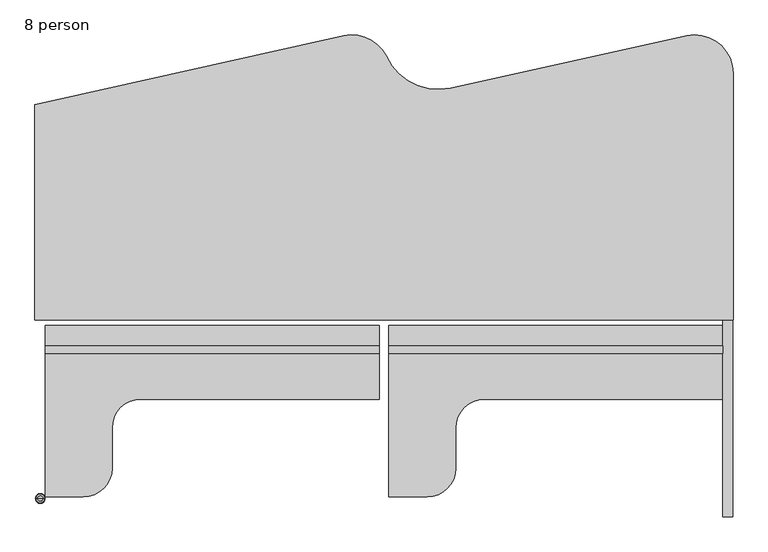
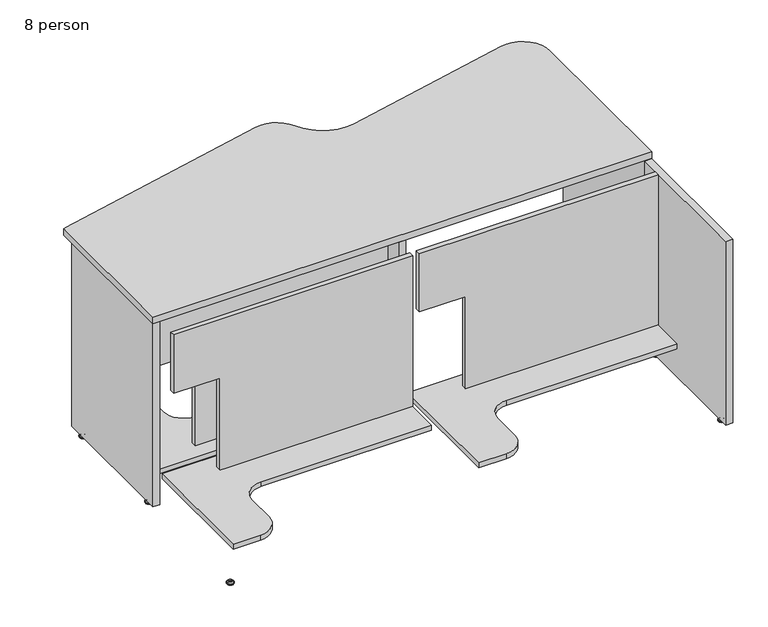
"""IFC4 building model written with IfcOpenShell, lengths in millimetres: furniture geometry, Nova Solutions - Collaboration Table - Keystone_8-11 person : 8 person."""

from ifc_helpers import new_model, si_unit, point, frame, frame_2d, origin, place, context, project, spatial, polyline, circle_curve, ellipse_curve, trimmed, segment, composite_curve, outline, extrude, source, transform, mapped, element, save
from ifc_brep_helpers import plane_surface, cylinder_surface, revolved_surface, advanced_brep


def furniture_8_person_6312feb5(model_context):
    return source(origin(), model_context, "Body", "SolidModel", [
        advanced_brep(
        [(2317.3156506, 474.3309375, 11.1125), (2310.638, 474.3309375, 11.1125), (2303.9603494, 474.3309375, 11.1125), (2317.3156506, 474.3309375, 9.525), (2303.9603494, 474.3309375, 9.525), (2322.5235135, 474.3309375, 4.7748687), (2298.7524865, 474.3309375, 4.7748687), (2323.3846506, 474.3309375, 3.989419), (2297.8913494, 474.3309375, 3.989419), (2323.3846506, 474.3309375, 3.175), (2297.8913494, 474.3309375, 3.175), (2322.5339119, 474.3309375, 0.0), (2298.7420881, 474.3309375, 0.0), (2310.638, 474.3309375, 0.0)],
        [
            (0, 1),
            (1, 2),
            (2, 0, circle_curve(frame((2310.638, 474.3309375, 11.1125), z_axis=(0.0, 0.0, 1.0), x_axis=(-1.0, 0.0, 0.0)), 6.6776506)),
            (0, 2, circle_curve(frame((2310.638, 474.3309375, 11.1125), z_axis=(0.0, 0.0, 1.0), x_axis=(-1.0, 0.0, 0.0)), 6.6776506)),
            (3, 0),
            (2, 4),
            (4, 3, circle_curve(frame((2310.638, 474.3309375, 9.525), z_axis=(0.0, 0.0, 1.0), x_axis=(-1.0, 0.0, 0.0)), 6.6776506)),
            (3, 4, circle_curve(frame((2310.638, 474.3309375, 9.525), z_axis=(0.0, 0.0, 1.0), x_axis=(-1.0, 0.0, 0.0)), 6.6776506)),
            (5, 3, circle_curve(frame((2323.5700627, 474.3309375, 11.1521822), z_axis=(0.0, 1.0, 0.0), x_axis=(-1.0, 0.0, 0.0)), 6.462615)),
            (4, 6, circle_curve(frame((2297.7059373, 474.3309375, 11.1521822), z_axis=(0.0, 1.0, 0.0), x_axis=(1.0, 0.0, 0.0)), 6.462615)),
            (6, 5, circle_curve(frame((2310.638, 474.3309375, 4.7748687), z_axis=(0.0, 0.0, 1.0), x_axis=(-1.0, 0.0, 0.0)), 11.8855135)),
            (5, 6, circle_curve(frame((2310.638, 474.3309375, 4.7748687), z_axis=(0.0, 0.0, 1.0), x_axis=(-1.0, 0.0, 0.0)), 11.8855135)),
            (7, 5, circle_curve(frame((2322.3504632, 474.3309375, 3.7203591), z_axis=(0.0, -1.0, 0.0), x_axis=(-1.0, 0.0, 0.0)), 1.0686145)),
            (6, 8, circle_curve(frame((2298.9255368, 474.3309375, 3.7203591), z_axis=(0.0, -1.0, 0.0), x_axis=(1.0, 0.0, 0.0)), 1.0686145)),
            (8, 7, circle_curve(frame((2310.638, 474.3309375, 3.989419), z_axis=(0.0, 0.0, 1.0), x_axis=(-1.0, 0.0, 0.0)), 12.7466506)),
            (7, 8, circle_curve(frame((2310.638, 474.3309375, 3.989419), z_axis=(0.0, 0.0, 1.0), x_axis=(-1.0, 0.0, 0.0)), 12.7466506)),
            (9, 7),
            (8, 10),
            (10, 9, circle_curve(frame((2310.638, 474.3309375, 3.175), z_axis=(0.0, 0.0, 1.0), x_axis=(-1.0, 0.0, 0.0)), 12.7466506)),
            (9, 10, circle_curve(frame((2310.638, 474.3309375, 3.175), z_axis=(0.0, 0.0, 1.0), x_axis=(-1.0, 0.0, 0.0)), 12.7466506)),
            (11, 9),
            (10, 12),
            (12, 11, circle_curve(frame((2310.638, 474.3309375, 0.0), z_axis=(0.0, 0.0, 1.0), x_axis=(-1.0, 0.0, 0.0)), 11.8959119)),
            (11, 12, circle_curve(frame((2310.638, 474.3309375, 0.0), z_axis=(0.0, 0.0, 1.0), x_axis=(-1.0, 0.0, 0.0)), 11.8959119)),
            (13, 11),
            (12, 13),
        ],
        [
            plane_surface(frame((2310.638, 474.3309375, 11.1125), z_axis=(0.0, 0.0, 1.0), x_axis=(-1.0, 0.0, 0.0))),
            cylinder_surface(frame((2310.638, 474.3309375, 43.2095994), z_axis=(0.0, 0.0, -1.0), x_axis=(-1.0, 0.0, 0.0)), 6.6776506),
            revolved_surface(trimmed(ellipse_curve(frame((2297.7059373, 474.3309375, 11.1521822), z_axis=(0.0, 1.0, 0.0), x_axis=(1.0, 0.0, 0.0)), 6.462615, 6.462615), [point((2303.9603494, 474.3309375, 9.525))], [point((2298.7524865, 474.3309375, 4.7748687))], True, "CARTESIAN"), (2310.638, 474.3309375, 43.2095994), (0.0, 0.0, -1.0)),
            revolved_surface(trimmed(ellipse_curve(frame((2298.9255368, 474.3309375, 3.7203591), z_axis=(0.0, -1.0, 0.0), x_axis=(1.0, 0.0, 0.0)), 1.0686145, 1.0686145), [point((2298.7524865, 474.3309375, 4.7748687))], [point((2297.8913494, 474.3309375, 3.989419))], True, "CARTESIAN"), (2310.638, 474.3309375, 43.2095994), (0.0, 0.0, -1.0)),
            cylinder_surface(frame((2310.638, 474.3309375, 43.2095994), z_axis=(0.0, 0.0, -1.0), x_axis=(-1.0, 0.0, 0.0)), 12.7466506),
            revolved_surface(polyline([(2297.8913494, 474.3309375, 3.175), (2298.7420881, 474.3309375, 0.0)]), (2310.638, 474.3309375, 43.2095994), (0.0, 0.0, -1.0)),
            plane_surface(frame((2310.638, 474.3309375, 0.0), z_axis=(0.0, 0.0, -1.0), x_axis=(-1.0, 0.0, 0.0))),
        ],
        [
            (0, [[1, 2, 3]]),
            (0, [[-2, -1, 4]]),
            (1, [[5, -3, 6, 7]]),
            (1, [[-6, -4, -5, 8]]),
            (2, [[9, -7, 10, 11]]),
            (2, [[-10, -8, -9, 12]]),
            (3, [[13, -11, 14, 15]]),
            (3, [[-14, -12, -13, 16]]),
            (4, [[17, -15, 18, 19]]),
            (4, [[-18, -16, -17, 20]]),
            (5, [[21, -19, 22, 23]]),
            (5, [[-22, -20, -21, 24]]),
            (6, [[25, -23, 26]]),
            (6, [[-26, -24, -25]]),
        ],
    ),
        advanced_brep(
        [(2317.3156506, 50.3590625, 11.1125), (2310.638, 50.3590625, 11.1125), (2303.9603494, 50.3590625, 11.1125), (2317.3156506, 50.3590625, 9.525), (2303.9603494, 50.3590625, 9.525), (2322.5235135, 50.3590625, 4.7748687), (2298.7524865, 50.3590625, 4.7748687), (2323.3846506, 50.3590625, 3.989419), (2297.8913494, 50.3590625, 3.989419), (2323.3846506, 50.3590625, 3.175), (2297.8913494, 50.3590625, 3.175), (2322.5339119, 50.3590625, 0.0), (2298.7420881, 50.3590625, 0.0), (2310.638, 50.3590625, 0.0)],
        [
            (0, 1),
            (1, 2),
            (2, 0, circle_curve(frame((2310.638, 50.3590625, 11.1125), z_axis=(0.0, 0.0, 1.0), x_axis=(-1.0, 0.0, 0.0)), 6.6776506)),
            (0, 2, circle_curve(frame((2310.638, 50.3590625, 11.1125), z_axis=(0.0, 0.0, 1.0), x_axis=(-1.0, 0.0, 0.0)), 6.6776506)),
            (3, 0),
            (2, 4),
            (4, 3, circle_curve(frame((2310.638, 50.3590625, 9.525), z_axis=(0.0, 0.0, 1.0), x_axis=(-1.0, 0.0, 0.0)), 6.6776506)),
            (3, 4, circle_curve(frame((2310.638, 50.3590625, 9.525), z_axis=(0.0, 0.0, 1.0), x_axis=(-1.0, 0.0, 0.0)), 6.6776506)),
            (5, 3, circle_curve(frame((2323.5700627, 50.3590625, 11.1521822), z_axis=(0.0, 1.0, 0.0), x_axis=(-1.0, 0.0, 0.0)), 6.462615)),
            (4, 6, circle_curve(frame((2297.7059373, 50.3590625, 11.1521822), z_axis=(0.0, 1.0, 0.0), x_axis=(1.0, 0.0, 0.0)), 6.462615)),
            (6, 5, circle_curve(frame((2310.638, 50.3590625, 4.7748687), z_axis=(0.0, 0.0, 1.0), x_axis=(-1.0, 0.0, 0.0)), 11.8855135)),
            (5, 6, circle_curve(frame((2310.638, 50.3590625, 4.7748687), z_axis=(0.0, 0.0, 1.0), x_axis=(-1.0, 0.0, 0.0)), 11.8855135)),
            (7, 5, circle_curve(frame((2322.3504632, 50.3590625, 3.7203591), z_axis=(0.0, -1.0, 0.0), x_axis=(-1.0, 0.0, 0.0)), 1.0686145)),
            (6, 8, circle_curve(frame((2298.9255368, 50.3590625, 3.7203591), z_axis=(0.0, -1.0, 0.0), x_axis=(1.0, 0.0, 0.0)), 1.0686145)),
            (8, 7, circle_curve(frame((2310.638, 50.3590625, 3.989419), z_axis=(0.0, 0.0, 1.0), x_axis=(-1.0, 0.0, 0.0)), 12.7466506)),
            (7, 8, circle_curve(frame((2310.638, 50.3590625, 3.989419), z_axis=(0.0, 0.0, 1.0), x_axis=(-1.0, 0.0, 0.0)), 12.7466506)),
            (9, 7),
            (8, 10),
            (10, 9, circle_curve(frame((2310.638, 50.3590625, 3.175), z_axis=(0.0, 0.0, 1.0), x_axis=(-1.0, 0.0, 0.0)), 12.7466506)),
            (9, 10, circle_curve(frame((2310.638, 50.3590625, 3.175), z_axis=(0.0, 0.0, 1.0), x_axis=(-1.0, 0.0, 0.0)), 12.7466506)),
            (11, 9),
            (10, 12),
            (12, 11, circle_curve(frame((2310.638, 50.3590625, 0.0), z_axis=(0.0, 0.0, 1.0), x_axis=(-1.0, 0.0, 0.0)), 11.8959119)),
            (11, 12, circle_curve(frame((2310.638, 50.3590625, 0.0), z_axis=(0.0, 0.0, 1.0), x_axis=(-1.0, 0.0, 0.0)), 11.8959119)),
            (13, 11),
            (12, 13),
        ],
        [
            plane_surface(frame((2310.638, 50.3590625, 11.1125), z_axis=(0.0, 0.0, 1.0), x_axis=(-1.0, 0.0, 0.0))),
            cylinder_surface(frame((2310.638, 50.3590625, 43.2095994), z_axis=(0.0, 0.0, -1.0), x_axis=(-1.0, 0.0, 0.0)), 6.6776506),
            revolved_surface(trimmed(ellipse_curve(frame((2297.7059373, 50.3590625, 11.1521822), z_axis=(0.0, 1.0, 0.0), x_axis=(1.0, 0.0, 0.0)), 6.462615, 6.462615), [point((2303.9603494, 50.3590625, 9.525))], [point((2298.7524865, 50.3590625, 4.7748687))], True, "CARTESIAN"), (2310.638, 50.3590625, 43.2095994), (0.0, 0.0, -1.0)),
            revolved_surface(trimmed(ellipse_curve(frame((2298.9255368, 50.3590625, 3.7203591), z_axis=(0.0, -1.0, 0.0), x_axis=(1.0, 0.0, 0.0)), 1.0686145, 1.0686145), [point((2298.7524865, 50.3590625, 4.7748687))], [point((2297.8913494, 50.3590625, 3.989419))], True, "CARTESIAN"), (2310.638, 50.3590625, 43.2095994), (0.0, 0.0, -1.0)),
            cylinder_surface(frame((2310.638, 50.3590625, 43.2095994), z_axis=(0.0, 0.0, -1.0), x_axis=(-1.0, 0.0, 0.0)), 12.7466506),
            revolved_surface(polyline([(2297.8913494, 50.3590625, 3.175), (2298.7420881, 50.3590625, 0.0)]), (2310.638, 50.3590625, 43.2095994), (0.0, 0.0, -1.0)),
            plane_surface(frame((2310.638, 50.3590625, 0.0), z_axis=(0.0, 0.0, -1.0), x_axis=(-1.0, 0.0, 0.0))),
        ],
        [
            (0, [[1, 2, 3]]),
            (0, [[-2, -1, 4]]),
            (1, [[5, -3, 6, 7]]),
            (1, [[-6, -4, -5, 8]]),
            (2, [[9, -7, 10, 11]]),
            (2, [[-10, -8, -9, 12]]),
            (3, [[13, -11, 14, 15]]),
            (3, [[-14, -12, -13, 16]]),
            (4, [[17, -15, 18, 19]]),
            (4, [[-18, -16, -17, 20]]),
            (5, [[21, -19, 22, 23]]),
            (5, [[-22, -20, -21, 24]]),
            (6, [[25, -23, 26]]),
            (6, [[-26, -24, -25]]),
        ],
    ),
        extrude(outline(polyline([(2323.488, 1.345), (2297.788, 1.345), (2297.788, 523.345), (2323.488, 523.345), (2323.488, 1.345)])), frame((0.0, 0.0, 15.6), z_axis=(0.0, 0.0, 1.0), x_axis=(1.0, 0.0, 0.0)), (0.0, 0.0, 1.0), 720.7),
        extrude(outline(polyline([(736.3, 1384.988), (736.3, 497.788), (507.4, 497.788), (507.4, 668.788), (145.5, 668.788), (145.5, 1384.988), (736.3, 1384.988)])), frame((0.0, 69.345, 0.0), z_axis=(0.0, 1.0, 0.0), x_axis=(0.0, 0.0, 1.0)), (0.0, 0.0, 1.0), 19.2),
        extrude(outline(composite_curve([segment(polyline([(497.788, 469.9075), (599.388, 469.9075)]), True, "CONTINUOUS"), segment(trimmed(circle_curve(frame_2d((599.388, 393.7075)), 76.2), [point((599.388, 469.9075))], [point((675.588, 393.7075))], False, "CARTESIAN"), True, "CONTINUOUS"), segment(polyline([(675.588, 393.7075), (675.588, 286.545)]), True, "CONTINUOUS"), segment(trimmed(circle_curve(frame_2d((751.788, 286.545)), 76.2), [point((675.588, 286.545))], [point((751.788, 210.345))], True, "CARTESIAN"), True, "CONTINUOUS"), segment(polyline([(751.788, 210.345), (1384.988, 210.345), (1384.988, 14.045), (497.788, 14.045), (497.788, 469.9075)]), True, "CONTINUOUS")], self_intersect=False)), frame((0.0, 0.0, 126.3), z_axis=(0.0, 0.0, 1.0), x_axis=(1.0, 0.0, 0.0)), (0.0, 0.0, 1.0), 19.2),
        advanced_brep(
        [(478.2603494, 474.3309375, 11.1125), (491.6156506, 474.3309375, 11.1125), (484.938, 474.3309375, 11.1125), (478.2603494, 474.3309375, 9.525), (491.6156506, 474.3309375, 9.525), (473.0524865, 474.3309375, 4.7748687), (496.8235135, 474.3309375, 4.7748687), (472.1913494, 474.3309375, 3.989419), (497.6846506, 474.3309375, 3.989419), (472.1913494, 474.3309375, 3.175), (497.6846506, 474.3309375, 3.175), (473.0420881, 474.3309375, 0.0), (496.8339119, 474.3309375, 0.0), (484.938, 474.3309375, 0.0)],
        [
            (0, 1, circle_curve(frame((484.938, 474.3309375, 11.1125), z_axis=(0.0, 0.0, 1.0), x_axis=(1.0, 0.0, 0.0)), 6.6776506)),
            (1, 2),
            (2, 0),
            (1, 0, circle_curve(frame((484.938, 474.3309375, 11.1125), z_axis=(0.0, 0.0, 1.0), x_axis=(1.0, 0.0, 0.0)), 6.6776506)),
            (3, 4, circle_curve(frame((484.938, 474.3309375, 9.525), z_axis=(0.0, 0.0, 1.0), x_axis=(1.0, 0.0, 0.0)), 6.6776506)),
            (4, 1),
            (0, 3),
            (4, 3, circle_curve(frame((484.938, 474.3309375, 9.525), z_axis=(0.0, 0.0, 1.0), x_axis=(1.0, 0.0, 0.0)), 6.6776506)),
            (5, 6, circle_curve(frame((484.938, 474.3309375, 4.7748687), z_axis=(0.0, 0.0, 1.0), x_axis=(1.0, 0.0, 0.0)), 11.8855135)),
            (6, 4, circle_curve(frame((497.8700627, 474.3309375, 11.1521822), z_axis=(0.0, 1.0, 0.0), x_axis=(-1.0, 0.0, 0.0)), 6.462615)),
            (3, 5, circle_curve(frame((472.0059373, 474.3309375, 11.1521822), z_axis=(0.0, 1.0, 0.0), x_axis=(1.0, 0.0, 0.0)), 6.462615)),
            (6, 5, circle_curve(frame((484.938, 474.3309375, 4.7748687), z_axis=(0.0, 0.0, 1.0), x_axis=(1.0, 0.0, 0.0)), 11.8855135)),
            (7, 8, circle_curve(frame((484.938, 474.3309375, 3.989419), z_axis=(0.0, 0.0, 1.0), x_axis=(1.0, 0.0, 0.0)), 12.7466506)),
            (8, 6, circle_curve(frame((496.6504632, 474.3309375, 3.7203591), z_axis=(0.0, -1.0, 0.0), x_axis=(-1.0, 0.0, 0.0)), 1.0686145)),
            (5, 7, circle_curve(frame((473.2255368, 474.3309375, 3.7203591), z_axis=(0.0, -1.0, 0.0), x_axis=(1.0, 0.0, 0.0)), 1.0686145)),
            (8, 7, circle_curve(frame((484.938, 474.3309375, 3.989419), z_axis=(0.0, 0.0, 1.0), x_axis=(1.0, 0.0, 0.0)), 12.7466506)),
            (9, 10, circle_curve(frame((484.938, 474.3309375, 3.175), z_axis=(0.0, 0.0, 1.0), x_axis=(1.0, 0.0, 0.0)), 12.7466506)),
            (10, 8),
            (7, 9),
            (10, 9, circle_curve(frame((484.938, 474.3309375, 3.175), z_axis=(0.0, 0.0, 1.0), x_axis=(1.0, 0.0, 0.0)), 12.7466506)),
            (11, 12, circle_curve(frame((484.938, 474.3309375, 0.0), z_axis=(0.0, 0.0, 1.0), x_axis=(1.0, 0.0, 0.0)), 11.8959119)),
            (12, 10),
            (9, 11),
            (12, 11, circle_curve(frame((484.938, 474.3309375, 0.0), z_axis=(0.0, 0.0, 1.0), x_axis=(1.0, 0.0, 0.0)), 11.8959119)),
            (13, 12),
            (11, 13),
        ],
        [
            plane_surface(frame((484.938, 474.3309375, 11.1125), z_axis=(0.0, 0.0, 1.0), x_axis=(1.0, 0.0, 0.0))),
            cylinder_surface(frame((484.938, 474.3309375, 43.2095994), z_axis=(0.0, 0.0, -1.0), x_axis=(1.0, 0.0, 0.0)), 6.6776506),
            revolved_surface(trimmed(ellipse_curve(frame((497.8700627, 474.3309375, 11.1521822), z_axis=(0.0, -1.0, 0.0), x_axis=(-1.0, 0.0, 0.0)), 6.462615, 6.462615), [point((491.6156506, 474.3309375, 9.525))], [point((496.8235135, 474.3309375, 4.7748687))], True, "CARTESIAN"), (484.938, 474.3309375, 43.2095994), (0.0, 0.0, -1.0)),
            revolved_surface(trimmed(ellipse_curve(frame((496.6504632, 474.3309375, 3.7203591), z_axis=(0.0, 1.0, 0.0), x_axis=(-1.0, 0.0, 0.0)), 1.0686145, 1.0686145), [point((496.8235135, 474.3309375, 4.7748687))], [point((497.6846506, 474.3309375, 3.989419))], True, "CARTESIAN"), (484.938, 474.3309375, 43.2095994), (0.0, 0.0, -1.0)),
            cylinder_surface(frame((484.938, 474.3309375, 43.2095994), z_axis=(0.0, 0.0, -1.0), x_axis=(1.0, 0.0, 0.0)), 12.7466506),
            revolved_surface(polyline([(497.6846506, 474.3309375, 3.175), (496.8339119, 474.3309375, 0.0)]), (484.938, 474.3309375, 43.2095994), (0.0, 0.0, -1.0)),
            plane_surface(frame((484.938, 474.3309375, 0.0), z_axis=(0.0, 0.0, -1.0), x_axis=(1.0, 0.0, 0.0))),
        ],
        [
            (0, [[1, 2, 3]]),
            (0, [[4, -3, -2]]),
            (1, [[5, 6, -1, 7]]),
            (1, [[8, -7, -4, -6]]),
            (2, [[9, 10, -5, 11]]),
            (2, [[12, -11, -8, -10]]),
            (3, [[13, 14, -9, 15]]),
            (3, [[16, -15, -12, -14]]),
            (4, [[17, 18, -13, 19]]),
            (4, [[20, -19, -16, -18]]),
            (5, [[21, 22, -17, 23]]),
            (5, [[24, -23, -20, -22]]),
            (6, [[25, -21, 26]]),
            (6, [[-26, -24, -25]]),
        ],
    ),
        advanced_brep(
        [(478.2603494, 50.3590625, 11.1125), (491.6156506, 50.3590625, 11.1125), (484.938, 50.3590625, 11.1125), (478.2603494, 50.3590625, 9.525), (491.6156506, 50.3590625, 9.525), (473.0524865, 50.3590625, 4.7748687), (496.8235135, 50.3590625, 4.7748687), (472.1913494, 50.3590625, 3.989419), (497.6846506, 50.3590625, 3.989419), (472.1913494, 50.3590625, 3.175), (497.6846506, 50.3590625, 3.175), (473.0420881, 50.3590625, 0.0), (496.8339119, 50.3590625, 0.0), (484.938, 50.3590625, 0.0)],
        [
            (0, 1, circle_curve(frame((484.938, 50.3590625, 11.1125), z_axis=(0.0, 0.0, 1.0), x_axis=(1.0, 0.0, 0.0)), 6.6776506)),
            (1, 2),
            (2, 0),
            (1, 0, circle_curve(frame((484.938, 50.3590625, 11.1125), z_axis=(0.0, 0.0, 1.0), x_axis=(1.0, 0.0, 0.0)), 6.6776506)),
            (3, 4, circle_curve(frame((484.938, 50.3590625, 9.525), z_axis=(0.0, 0.0, 1.0), x_axis=(1.0, 0.0, 0.0)), 6.6776506)),
            (4, 1),
            (0, 3),
            (4, 3, circle_curve(frame((484.938, 50.3590625, 9.525), z_axis=(0.0, 0.0, 1.0), x_axis=(1.0, 0.0, 0.0)), 6.6776506)),
            (5, 6, circle_curve(frame((484.938, 50.3590625, 4.7748687), z_axis=(0.0, 0.0, 1.0), x_axis=(1.0, 0.0, 0.0)), 11.8855135)),
            (6, 4, circle_curve(frame((497.8700627, 50.3590625, 11.1521822), z_axis=(0.0, 1.0, 0.0), x_axis=(-1.0, 0.0, 0.0)), 6.462615)),
            (3, 5, circle_curve(frame((472.0059373, 50.3590625, 11.1521822), z_axis=(0.0, 1.0, 0.0), x_axis=(1.0, 0.0, 0.0)), 6.462615)),
            (6, 5, circle_curve(frame((484.938, 50.3590625, 4.7748687), z_axis=(0.0, 0.0, 1.0), x_axis=(1.0, 0.0, 0.0)), 11.8855135)),
            (7, 8, circle_curve(frame((484.938, 50.3590625, 3.989419), z_axis=(0.0, 0.0, 1.0), x_axis=(1.0, 0.0, 0.0)), 12.7466506)),
            (8, 6, circle_curve(frame((496.6504632, 50.3590625, 3.7203591), z_axis=(0.0, -1.0, 0.0), x_axis=(-1.0, 0.0, 0.0)), 1.0686145)),
            (5, 7, circle_curve(frame((473.2255368, 50.3590625, 3.7203591), z_axis=(0.0, -1.0, 0.0), x_axis=(1.0, 0.0, 0.0)), 1.0686145)),
            (8, 7, circle_curve(frame((484.938, 50.3590625, 3.989419), z_axis=(0.0, 0.0, 1.0), x_axis=(1.0, 0.0, 0.0)), 12.7466506)),
            (9, 10, circle_curve(frame((484.938, 50.3590625, 3.175), z_axis=(0.0, 0.0, 1.0), x_axis=(1.0, 0.0, 0.0)), 12.7466506)),
            (10, 8),
            (7, 9),
            (10, 9, circle_curve(frame((484.938, 50.3590625, 3.175), z_axis=(0.0, 0.0, 1.0), x_axis=(1.0, 0.0, 0.0)), 12.7466506)),
            (11, 12, circle_curve(frame((484.938, 50.3590625, 0.0), z_axis=(0.0, 0.0, 1.0), x_axis=(1.0, 0.0, 0.0)), 11.8959119)),
            (12, 10),
            (9, 11),
            (12, 11, circle_curve(frame((484.938, 50.3590625, 0.0), z_axis=(0.0, 0.0, 1.0), x_axis=(1.0, 0.0, 0.0)), 11.8959119)),
            (13, 12),
            (11, 13),
        ],
        [
            plane_surface(frame((484.938, 50.3590625, 11.1125), z_axis=(0.0, 0.0, 1.0), x_axis=(1.0, 0.0, 0.0))),
            cylinder_surface(frame((484.938, 50.3590625, 43.2095994), z_axis=(0.0, 0.0, -1.0), x_axis=(1.0, 0.0, 0.0)), 6.6776506),
            revolved_surface(trimmed(ellipse_curve(frame((497.8700627, 50.3590625, 11.1521822), z_axis=(0.0, -1.0, 0.0), x_axis=(-1.0, 0.0, 0.0)), 6.462615, 6.462615), [point((491.6156506, 50.3590625, 9.525))], [point((496.8235135, 50.3590625, 4.7748687))], True, "CARTESIAN"), (484.938, 50.3590625, 43.2095994), (0.0, 0.0, -1.0)),
            revolved_surface(trimmed(ellipse_curve(frame((496.6504632, 50.3590625, 3.7203591), z_axis=(0.0, 1.0, 0.0), x_axis=(-1.0, 0.0, 0.0)), 1.0686145, 1.0686145), [point((496.8235135, 50.3590625, 4.7748687))], [point((497.6846506, 50.3590625, 3.989419))], True, "CARTESIAN"), (484.938, 50.3590625, 43.2095994), (0.0, 0.0, -1.0)),
            cylinder_surface(frame((484.938, 50.3590625, 43.2095994), z_axis=(0.0, 0.0, -1.0), x_axis=(1.0, 0.0, 0.0)), 12.7466506),
            revolved_surface(polyline([(497.6846506, 50.3590625, 3.175), (496.8339119, 50.3590625, 0.0)]), (484.938, 50.3590625, 43.2095994), (0.0, 0.0, -1.0)),
            plane_surface(frame((484.938, 50.3590625, 0.0), z_axis=(0.0, 0.0, -1.0), x_axis=(1.0, 0.0, 0.0))),
        ],
        [
            (0, [[1, 2, 3]]),
            (0, [[4, -3, -2]]),
            (1, [[5, 6, -1, 7]]),
            (1, [[8, -7, -4, -6]]),
            (2, [[9, 10, -5, 11]]),
            (2, [[12, -11, -8, -10]]),
            (3, [[13, 14, -9, 15]]),
            (3, [[16, -15, -12, -14]]),
            (4, [[17, 18, -13, 19]]),
            (4, [[20, -19, -16, -18]]),
            (5, [[21, 22, -17, 23]]),
            (5, [[24, -23, -20, -22]]),
            (6, [[25, -21, 26]]),
            (6, [[-26, -24, -25]]),
        ],
    ),
        extrude(outline(polyline([(472.088, 1.345), (472.088, 523.345), (497.788, 523.345), (497.788, 1.345), (472.088, 1.345)])), frame((0.0, 0.0, 15.6), z_axis=(0.0, 0.0, 1.0), x_axis=(1.0, 0.0, 0.0)), (0.0, 0.0, 1.0), 720.7),
        advanced_brep(
        [(1404.5156506, 474.3309375, 11.1125), (1397.838, 474.3309375, 11.1125), (1391.1603494, 474.3309375, 11.1125), (1404.5156506, 474.3309375, 9.525), (1391.1603494, 474.3309375, 9.525), (1409.7235135, 474.3309375, 4.7748687), (1385.9524865, 474.3309375, 4.7748687), (1410.5846506, 474.3309375, 3.989419), (1385.0913494, 474.3309375, 3.989419), (1410.5846506, 474.3309375, 3.175), (1385.0913494, 474.3309375, 3.175), (1409.7339119, 474.3309375, 0.0), (1385.9420881, 474.3309375, 0.0), (1397.838, 474.3309375, 0.0)],
        [
            (0, 1),
            (1, 2),
            (2, 0, circle_curve(frame((1397.838, 474.3309375, 11.1125), z_axis=(0.0, 0.0, 1.0), x_axis=(-1.0, 0.0, 0.0)), 6.6776506)),
            (0, 2, circle_curve(frame((1397.838, 474.3309375, 11.1125), z_axis=(0.0, 0.0, 1.0), x_axis=(-1.0, 0.0, 0.0)), 6.6776506)),
            (3, 0),
            (2, 4),
            (4, 3, circle_curve(frame((1397.838, 474.3309375, 9.525), z_axis=(0.0, 0.0, 1.0), x_axis=(-1.0, 0.0, 0.0)), 6.6776506)),
            (3, 4, circle_curve(frame((1397.838, 474.3309375, 9.525), z_axis=(0.0, 0.0, 1.0), x_axis=(-1.0, 0.0, 0.0)), 6.6776506)),
            (5, 3, circle_curve(frame((1410.7700627, 474.3309375, 11.1521822), z_axis=(0.0, 1.0, 0.0), x_axis=(-1.0, 0.0, 0.0)), 6.462615)),
            (4, 6, circle_curve(frame((1384.9059373, 474.3309375, 11.1521822), z_axis=(0.0, 1.0, 0.0), x_axis=(1.0, 0.0, 0.0)), 6.462615)),
            (6, 5, circle_curve(frame((1397.838, 474.3309375, 4.7748687), z_axis=(0.0, 0.0, 1.0), x_axis=(-1.0, 0.0, 0.0)), 11.8855135)),
            (5, 6, circle_curve(frame((1397.838, 474.3309375, 4.7748687), z_axis=(0.0, 0.0, 1.0), x_axis=(-1.0, 0.0, 0.0)), 11.8855135)),
            (7, 5, circle_curve(frame((1409.5504632, 474.3309375, 3.7203591), z_axis=(0.0, -1.0, 0.0), x_axis=(-1.0, 0.0, 0.0)), 1.0686145)),
            (6, 8, circle_curve(frame((1386.1255368, 474.3309375, 3.7203591), z_axis=(0.0, -1.0, 0.0), x_axis=(1.0, 0.0, 0.0)), 1.0686145)),
            (8, 7, circle_curve(frame((1397.838, 474.3309375, 3.989419), z_axis=(0.0, 0.0, 1.0), x_axis=(-1.0, 0.0, 0.0)), 12.7466506)),
            (7, 8, circle_curve(frame((1397.838, 474.3309375, 3.989419), z_axis=(0.0, 0.0, 1.0), x_axis=(-1.0, 0.0, 0.0)), 12.7466506)),
            (9, 7),
            (8, 10),
            (10, 9, circle_curve(frame((1397.838, 474.3309375, 3.175), z_axis=(0.0, 0.0, 1.0), x_axis=(-1.0, 0.0, 0.0)), 12.7466506)),
            (9, 10, circle_curve(frame((1397.838, 474.3309375, 3.175), z_axis=(0.0, 0.0, 1.0), x_axis=(-1.0, 0.0, 0.0)), 12.7466506)),
            (11, 9),
            (10, 12),
            (12, 11, circle_curve(frame((1397.838, 474.3309375, 0.0), z_axis=(0.0, 0.0, 1.0), x_axis=(-1.0, 0.0, 0.0)), 11.8959119)),
            (11, 12, circle_curve(frame((1397.838, 474.3309375, 0.0), z_axis=(0.0, 0.0, 1.0), x_axis=(-1.0, 0.0, 0.0)), 11.8959119)),
            (13, 11),
            (12, 13),
        ],
        [
            plane_surface(frame((1397.838, 474.3309375, 11.1125), z_axis=(0.0, 0.0, 1.0), x_axis=(-1.0, 0.0, 0.0))),
            cylinder_surface(frame((1397.838, 474.3309375, 43.2095994), z_axis=(0.0, 0.0, -1.0), x_axis=(-1.0, 0.0, 0.0)), 6.6776506),
            revolved_surface(trimmed(ellipse_curve(frame((1384.9059373, 474.3309375, 11.1521822), z_axis=(0.0, 1.0, 0.0), x_axis=(1.0, 0.0, 0.0)), 6.462615, 6.462615), [point((1391.1603494, 474.3309375, 9.525))], [point((1385.9524865, 474.3309375, 4.7748687))], True, "CARTESIAN"), (1397.838, 474.3309375, 43.2095994), (0.0, 0.0, -1.0)),
            revolved_surface(trimmed(ellipse_curve(frame((1386.1255368, 474.3309375, 3.7203591), z_axis=(0.0, -1.0, 0.0), x_axis=(1.0, 0.0, 0.0)), 1.0686145, 1.0686145), [point((1385.9524865, 474.3309375, 4.7748687))], [point((1385.0913494, 474.3309375, 3.989419))], True, "CARTESIAN"), (1397.838, 474.3309375, 43.2095994), (0.0, 0.0, -1.0)),
            cylinder_surface(frame((1397.838, 474.3309375, 43.2095994), z_axis=(0.0, 0.0, -1.0), x_axis=(-1.0, 0.0, 0.0)), 12.7466506),
            revolved_surface(polyline([(1385.0913494, 474.3309375, 3.175), (1385.9420881, 474.3309375, 0.0)]), (1397.838, 474.3309375, 43.2095994), (0.0, 0.0, -1.0)),
            plane_surface(frame((1397.838, 474.3309375, 0.0), z_axis=(0.0, 0.0, -1.0), x_axis=(-1.0, 0.0, 0.0))),
        ],
        [
            (0, [[1, 2, 3]]),
            (0, [[-2, -1, 4]]),
            (1, [[5, -3, 6, 7]]),
            (1, [[-6, -4, -5, 8]]),
            (2, [[9, -7, 10, 11]]),
            (2, [[-10, -8, -9, 12]]),
            (3, [[13, -11, 14, 15]]),
            (3, [[-14, -12, -13, 16]]),
            (4, [[17, -15, 18, 19]]),
            (4, [[-18, -16, -17, 20]]),
            (5, [[21, -19, 22, 23]]),
            (5, [[-22, -20, -21, 24]]),
            (6, [[25, -23, 26]]),
            (6, [[-26, -24, -25]]),
        ],
    ),
        advanced_brep(
        [(1404.5156506, 50.3590625, 11.1125), (1397.838, 50.3590625, 11.1125), (1391.1603494, 50.3590625, 11.1125), (1404.5156506, 50.3590625, 9.525), (1391.1603494, 50.3590625, 9.525), (1409.7235135, 50.3590625, 4.7748687), (1385.9524865, 50.3590625, 4.7748687), (1410.5846506, 50.3590625, 3.989419), (1385.0913494, 50.3590625, 3.989419), (1410.5846506, 50.3590625, 3.175), (1385.0913494, 50.3590625, 3.175), (1409.7339119, 50.3590625, 0.0), (1385.9420881, 50.3590625, 0.0), (1397.838, 50.3590625, 0.0)],
        [
            (0, 1),
            (1, 2),
            (2, 0, circle_curve(frame((1397.838, 50.3590625, 11.1125), z_axis=(0.0, 0.0, 1.0), x_axis=(-1.0, 0.0, 0.0)), 6.6776506)),
            (0, 2, circle_curve(frame((1397.838, 50.3590625, 11.1125), z_axis=(0.0, 0.0, 1.0), x_axis=(-1.0, 0.0, 0.0)), 6.6776506)),
            (3, 0),
            (2, 4),
            (4, 3, circle_curve(frame((1397.838, 50.3590625, 9.525), z_axis=(0.0, 0.0, 1.0), x_axis=(-1.0, 0.0, 0.0)), 6.6776506)),
            (3, 4, circle_curve(frame((1397.838, 50.3590625, 9.525), z_axis=(0.0, 0.0, 1.0), x_axis=(-1.0, 0.0, 0.0)), 6.6776506)),
            (5, 3, circle_curve(frame((1410.7700627, 50.3590625, 11.1521822), z_axis=(0.0, 1.0, 0.0), x_axis=(-1.0, 0.0, 0.0)), 6.462615)),
            (4, 6, circle_curve(frame((1384.9059373, 50.3590625, 11.1521822), z_axis=(0.0, 1.0, 0.0), x_axis=(1.0, 0.0, 0.0)), 6.462615)),
            (6, 5, circle_curve(frame((1397.838, 50.3590625, 4.7748687), z_axis=(0.0, 0.0, 1.0), x_axis=(-1.0, 0.0, 0.0)), 11.8855135)),
            (5, 6, circle_curve(frame((1397.838, 50.3590625, 4.7748687), z_axis=(0.0, 0.0, 1.0), x_axis=(-1.0, 0.0, 0.0)), 11.8855135)),
            (7, 5, circle_curve(frame((1409.5504632, 50.3590625, 3.7203591), z_axis=(0.0, -1.0, 0.0), x_axis=(-1.0, 0.0, 0.0)), 1.0686145)),
            (6, 8, circle_curve(frame((1386.1255368, 50.3590625, 3.7203591), z_axis=(0.0, -1.0, 0.0), x_axis=(1.0, 0.0, 0.0)), 1.0686145)),
            (8, 7, circle_curve(frame((1397.838, 50.3590625, 3.989419), z_axis=(0.0, 0.0, 1.0), x_axis=(-1.0, 0.0, 0.0)), 12.7466506)),
            (7, 8, circle_curve(frame((1397.838, 50.3590625, 3.989419), z_axis=(0.0, 0.0, 1.0), x_axis=(-1.0, 0.0, 0.0)), 12.7466506)),
            (9, 7),
            (8, 10),
            (10, 9, circle_curve(frame((1397.838, 50.3590625, 3.175), z_axis=(0.0, 0.0, 1.0), x_axis=(-1.0, 0.0, 0.0)), 12.7466506)),
            (9, 10, circle_curve(frame((1397.838, 50.3590625, 3.175), z_axis=(0.0, 0.0, 1.0), x_axis=(-1.0, 0.0, 0.0)), 12.7466506)),
            (11, 9),
            (10, 12),
            (12, 11, circle_curve(frame((1397.838, 50.3590625, 0.0), z_axis=(0.0, 0.0, 1.0), x_axis=(-1.0, 0.0, 0.0)), 11.8959119)),
            (11, 12, circle_curve(frame((1397.838, 50.3590625, 0.0), z_axis=(0.0, 0.0, 1.0), x_axis=(-1.0, 0.0, 0.0)), 11.8959119)),
            (13, 11),
            (12, 13),
        ],
        [
            plane_surface(frame((1397.838, 50.3590625, 11.1125), z_axis=(0.0, 0.0, 1.0), x_axis=(-1.0, 0.0, 0.0))),
            cylinder_surface(frame((1397.838, 50.3590625, 43.2095994), z_axis=(0.0, 0.0, -1.0), x_axis=(-1.0, 0.0, 0.0)), 6.6776506),
            revolved_surface(trimmed(ellipse_curve(frame((1384.9059373, 50.3590625, 11.1521822), z_axis=(0.0, 1.0, 0.0), x_axis=(1.0, 0.0, 0.0)), 6.462615, 6.462615), [point((1391.1603494, 50.3590625, 9.525))], [point((1385.9524865, 50.3590625, 4.7748687))], True, "CARTESIAN"), (1397.838, 50.3590625, 43.2095994), (0.0, 0.0, -1.0)),
            revolved_surface(trimmed(ellipse_curve(frame((1386.1255368, 50.3590625, 3.7203591), z_axis=(0.0, -1.0, 0.0), x_axis=(1.0, 0.0, 0.0)), 1.0686145, 1.0686145), [point((1385.9524865, 50.3590625, 4.7748687))], [point((1385.0913494, 50.3590625, 3.989419))], True, "CARTESIAN"), (1397.838, 50.3590625, 43.2095994), (0.0, 0.0, -1.0)),
            cylinder_surface(frame((1397.838, 50.3590625, 43.2095994), z_axis=(0.0, 0.0, -1.0), x_axis=(-1.0, 0.0, 0.0)), 12.7466506),
            revolved_surface(polyline([(1385.0913494, 50.3590625, 3.175), (1385.9420881, 50.3590625, 0.0)]), (1397.838, 50.3590625, 43.2095994), (0.0, 0.0, -1.0)),
            plane_surface(frame((1397.838, 50.3590625, 0.0), z_axis=(0.0, 0.0, -1.0), x_axis=(-1.0, 0.0, 0.0))),
        ],
        [
            (0, [[1, 2, 3]]),
            (0, [[-2, -1, 4]]),
            (1, [[5, -3, 6, 7]]),
            (1, [[-6, -4, -5, 8]]),
            (2, [[9, -7, 10, 11]]),
            (2, [[-10, -8, -9, 12]]),
            (3, [[13, -11, 14, 15]]),
            (3, [[-14, -12, -13, 16]]),
            (4, [[17, -15, 18, 19]]),
            (4, [[-18, -16, -17, 20]]),
            (5, [[21, -19, 22, 23]]),
            (5, [[-22, -20, -21, 24]]),
            (6, [[25, -23, 26]]),
            (6, [[-26, -24, -25]]),
        ],
    ),
        extrude(outline(polyline([(1410.688, 1.345), (1384.988, 1.345), (1384.988, 523.345), (1410.688, 523.345), (1410.688, 1.345)])), frame((0.0, 0.0, 15.6), z_axis=(0.0, 0.0, 1.0), x_axis=(1.0, 0.0, 0.0)), (0.0, 0.0, 1.0), 720.7),
        extrude(outline(composite_curve([segment(polyline([(2324.888, 0.0), (470.65, 0.0), (470.65, 572.7433508)]), True, "CONTINUOUS"), segment(trimmed(circle_curve(frame_2d((496.0128548, 474.4632633)), 101.5), [point((470.65, 572.7433508))], [point((477.0621764, 574.1784667))], False, "CARTESIAN"), True, "CONTINUOUS"), segment(polyline([(477.0621764, 574.1784667), (1290.5552116, 755.6229945)]), True, "CONTINUOUS"), segment(trimmed(circle_curve(frame_2d((1312.6512006, 656.5572725)), 101.5), [point((1290.5552116, 755.6229945))], [point((1403.2529334, 702.3128843))], False, "CARTESIAN"), True, "CONTINUOUS"), segment(trimmed(circle_curve(frame_2d((1541.9310311, 765.5121345)), 152.4), [point((1403.2529334, 702.3128843))], [point((1574.9164283, 616.724623))], True, "CARTESIAN"), True, "CONTINUOUS"), segment(polyline([(1574.9164283, 616.724623), (2201.4193792, 755.6169834)]), True, "CONTINUOUS"), segment(trimmed(circle_curve(frame_2d((2223.388, 656.5229386)), 101.5), [point((2201.4193792, 755.6169834))], [point((2324.888, 656.5229386))], False, "CARTESIAN"), True, "CONTINUOUS"), segment(polyline([(2324.888, 656.5229386), (2324.888, 0.0)]), True, "CONTINUOUS")], self_intersect=False)), frame((0.0, 0.0, 736.3), z_axis=(0.0, 0.0, 1.0), x_axis=(1.0, 0.0, 0.0)), (0.0, 0.0, 1.0), 25.7),
        extrude(outline(polyline([(736.3, 2297.788), (736.3, 1410.688), (507.4, 1410.688), (507.4, 1581.688), (145.5, 1581.688), (145.5, 2297.788), (736.3, 2297.788)])), frame((0.0, -88.545, 0.0), z_axis=(0.0, 1.0, 0.0), x_axis=(0.0, 0.0, 1.0)), (0.0, 0.0, 1.0), 19.2),
        extrude(outline(composite_curve([segment(polyline([(2297.788, -14.045), (2297.788, -210.345), (1664.688, -210.345)]), True, "CONTINUOUS"), segment(trimmed(circle_curve(frame_2d((1664.688, -286.545)), 76.2), [point((1664.688, -210.345))], [point((1588.488, -286.545))], True, "CARTESIAN"), True, "CONTINUOUS"), segment(polyline([(1588.488, -286.545), (1588.488, -393.7075)]), True, "CONTINUOUS"), segment(trimmed(circle_curve(frame_2d((1512.288, -393.7075)), 76.2), [point((1588.488, -393.7075))], [point((1512.288, -469.9075))], False, "CARTESIAN"), True, "CONTINUOUS"), segment(polyline([(1512.288, -469.9075), (1410.688, -469.9075), (1410.688, -14.045), (2297.788, -14.045)]), True, "CONTINUOUS")], self_intersect=False)), frame((0.0, 0.0, 126.3), z_axis=(0.0, 0.0, 1.0), x_axis=(1.0, 0.0, 0.0)), (0.0, 0.0, 1.0), 19.2),
        advanced_brep(
        [(2317.3156506, -474.3309375, 11.1125), (2303.9603494, -474.3309375, 11.1125), (2310.638, -474.3309375, 11.1125), (2317.3156506, -474.3309375, 9.525), (2303.9603494, -474.3309375, 9.525), (2322.5235135, -474.3309375, 4.7748687), (2298.7524865, -474.3309375, 4.7748687), (2323.3846506, -474.3309375, 3.989419), (2297.8913494, -474.3309375, 3.989419), (2323.3846506, -474.3309375, 3.175), (2297.8913494, -474.3309375, 3.175), (2322.5339119, -474.3309375, 0.0), (2298.7420881, -474.3309375, 0.0), (2310.638, -474.3309375, 0.0)],
        [
            (0, 1, circle_curve(frame((2310.638, -474.3309375, 11.1125), z_axis=(0.0, 0.0, 1.0), x_axis=(-1.0, 0.0, 0.0)), 6.6776506)),
            (1, 2),
            (2, 0),
            (1, 0, circle_curve(frame((2310.638, -474.3309375, 11.1125), z_axis=(0.0, 0.0, 1.0), x_axis=(-1.0, 0.0, 0.0)), 6.6776506)),
            (3, 4, circle_curve(frame((2310.638, -474.3309375, 9.525), z_axis=(0.0, 0.0, 1.0), x_axis=(-1.0, 0.0, 0.0)), 6.6776506)),
            (4, 1),
            (0, 3),
            (4, 3, circle_curve(frame((2310.638, -474.3309375, 9.525), z_axis=(0.0, 0.0, 1.0), x_axis=(-1.0, 0.0, 0.0)), 6.6776506)),
            (5, 6, circle_curve(frame((2310.638, -474.3309375, 4.7748687), z_axis=(0.0, 0.0, 1.0), x_axis=(-1.0, 0.0, 0.0)), 11.8855135)),
            (6, 4, circle_curve(frame((2297.7059373, -474.3309375, 11.1521822), z_axis=(0.0, -1.0, 0.0), x_axis=(1.0, 0.0, 0.0)), 6.462615)),
            (3, 5, circle_curve(frame((2323.5700627, -474.3309375, 11.1521822), z_axis=(0.0, -1.0, 0.0), x_axis=(-1.0, 0.0, 0.0)), 6.462615)),
            (6, 5, circle_curve(frame((2310.638, -474.3309375, 4.7748687), z_axis=(0.0, 0.0, 1.0), x_axis=(-1.0, 0.0, 0.0)), 11.8855135)),
            (7, 8, circle_curve(frame((2310.638, -474.3309375, 3.989419), z_axis=(0.0, 0.0, 1.0), x_axis=(-1.0, 0.0, 0.0)), 12.7466506)),
            (8, 6, circle_curve(frame((2298.9255368, -474.3309375, 3.7203591), z_axis=(0.0, 1.0, 0.0), x_axis=(1.0, 0.0, 0.0)), 1.0686145)),
            (5, 7, circle_curve(frame((2322.3504632, -474.3309375, 3.7203591), z_axis=(0.0, 1.0, 0.0), x_axis=(-1.0, 0.0, 0.0)), 1.0686145)),
            (8, 7, circle_curve(frame((2310.638, -474.3309375, 3.989419), z_axis=(0.0, 0.0, 1.0), x_axis=(-1.0, 0.0, 0.0)), 12.7466506)),
            (9, 10, circle_curve(frame((2310.638, -474.3309375, 3.175), z_axis=(0.0, 0.0, 1.0), x_axis=(-1.0, 0.0, 0.0)), 12.7466506)),
            (10, 8),
            (7, 9),
            (10, 9, circle_curve(frame((2310.638, -474.3309375, 3.175), z_axis=(0.0, 0.0, 1.0), x_axis=(-1.0, 0.0, 0.0)), 12.7466506)),
            (11, 12, circle_curve(frame((2310.638, -474.3309375, 0.0), z_axis=(0.0, 0.0, 1.0), x_axis=(-1.0, 0.0, 0.0)), 11.8959119)),
            (12, 10),
            (9, 11),
            (12, 11, circle_curve(frame((2310.638, -474.3309375, 0.0), z_axis=(0.0, 0.0, 1.0), x_axis=(-1.0, 0.0, 0.0)), 11.8959119)),
            (13, 12),
            (11, 13),
        ],
        [
            plane_surface(frame((2310.638, -474.3309375, 11.1125), z_axis=(0.0, 0.0, 1.0), x_axis=(-1.0, 0.0, 0.0))),
            cylinder_surface(frame((2310.638, -474.3309375, 43.2095994), z_axis=(0.0, 0.0, -1.0), x_axis=(-1.0, 0.0, 0.0)), 6.6776506),
            revolved_surface(trimmed(ellipse_curve(frame((2297.7059373, -474.3309375, 11.1521822), z_axis=(0.0, 1.0, 0.0), x_axis=(1.0, 0.0, 0.0)), 6.462615, 6.462615), [point((2303.9603494, -474.3309375, 9.525))], [point((2298.7524865, -474.3309375, 4.7748687))], True, "CARTESIAN"), (2310.638, -474.3309375, 43.2095994), (0.0, 0.0, -1.0)),
            revolved_surface(trimmed(ellipse_curve(frame((2298.9255368, -474.3309375, 3.7203591), z_axis=(0.0, -1.0, 0.0), x_axis=(1.0, 0.0, 0.0)), 1.0686145, 1.0686145), [point((2298.7524865, -474.3309375, 4.7748687))], [point((2297.8913494, -474.3309375, 3.989419))], True, "CARTESIAN"), (2310.638, -474.3309375, 43.2095994), (0.0, 0.0, -1.0)),
            cylinder_surface(frame((2310.638, -474.3309375, 43.2095994), z_axis=(0.0, 0.0, -1.0), x_axis=(-1.0, 0.0, 0.0)), 12.7466506),
            revolved_surface(polyline([(2297.8913494, -474.3309375, 3.175), (2298.7420881, -474.3309375, 0.0)]), (2310.638, -474.3309375, 43.2095994), (0.0, 0.0, -1.0)),
            plane_surface(frame((2310.638, -474.3309375, 0.0), z_axis=(0.0, 0.0, -1.0), x_axis=(-1.0, 0.0, 0.0))),
        ],
        [
            (0, [[1, 2, 3]]),
            (0, [[4, -3, -2]]),
            (1, [[5, 6, -1, 7]]),
            (1, [[8, -7, -4, -6]]),
            (2, [[9, 10, -5, 11]]),
            (2, [[12, -11, -8, -10]]),
            (3, [[13, 14, -9, 15]]),
            (3, [[16, -15, -12, -14]]),
            (4, [[17, 18, -13, 19]]),
            (4, [[20, -19, -16, -18]]),
            (5, [[21, 22, -17, 23]]),
            (5, [[24, -23, -20, -22]]),
            (6, [[25, -21, 26]]),
            (6, [[-26, -24, -25]]),
        ],
    ),
        advanced_brep(
        [(2317.3156506, -50.3590625, 11.1125), (2303.9603494, -50.3590625, 11.1125), (2310.638, -50.3590625, 11.1125), (2317.3156506, -50.3590625, 9.525), (2303.9603494, -50.3590625, 9.525), (2322.5235135, -50.3590625, 4.7748687), (2298.7524865, -50.3590625, 4.7748687), (2323.3846506, -50.3590625, 3.989419), (2297.8913494, -50.3590625, 3.989419), (2323.3846506, -50.3590625, 3.175), (2297.8913494, -50.3590625, 3.175), (2322.5339119, -50.3590625, 0.0), (2298.7420881, -50.3590625, 0.0), (2310.638, -50.3590625, 0.0)],
        [
            (0, 1, circle_curve(frame((2310.638, -50.3590625, 11.1125), z_axis=(0.0, 0.0, 1.0), x_axis=(-1.0, 0.0, 0.0)), 6.6776506)),
            (1, 2),
            (2, 0),
            (1, 0, circle_curve(frame((2310.638, -50.3590625, 11.1125), z_axis=(0.0, 0.0, 1.0), x_axis=(-1.0, 0.0, 0.0)), 6.6776506)),
            (3, 4, circle_curve(frame((2310.638, -50.3590625, 9.525), z_axis=(0.0, 0.0, 1.0), x_axis=(-1.0, 0.0, 0.0)), 6.6776506)),
            (4, 1),
            (0, 3),
            (4, 3, circle_curve(frame((2310.638, -50.3590625, 9.525), z_axis=(0.0, 0.0, 1.0), x_axis=(-1.0, 0.0, 0.0)), 6.6776506)),
            (5, 6, circle_curve(frame((2310.638, -50.3590625, 4.7748687), z_axis=(0.0, 0.0, 1.0), x_axis=(-1.0, 0.0, 0.0)), 11.8855135)),
            (6, 4, circle_curve(frame((2297.7059373, -50.3590625, 11.1521822), z_axis=(0.0, -1.0, 0.0), x_axis=(1.0, 0.0, 0.0)), 6.462615)),
            (3, 5, circle_curve(frame((2323.5700627, -50.3590625, 11.1521822), z_axis=(0.0, -1.0, 0.0), x_axis=(-1.0, 0.0, 0.0)), 6.462615)),
            (6, 5, circle_curve(frame((2310.638, -50.3590625, 4.7748687), z_axis=(0.0, 0.0, 1.0), x_axis=(-1.0, 0.0, 0.0)), 11.8855135)),
            (7, 8, circle_curve(frame((2310.638, -50.3590625, 3.989419), z_axis=(0.0, 0.0, 1.0), x_axis=(-1.0, 0.0, 0.0)), 12.7466506)),
            (8, 6, circle_curve(frame((2298.9255368, -50.3590625, 3.7203591), z_axis=(0.0, 1.0, 0.0), x_axis=(1.0, 0.0, 0.0)), 1.0686145)),
            (5, 7, circle_curve(frame((2322.3504632, -50.3590625, 3.7203591), z_axis=(0.0, 1.0, 0.0), x_axis=(-1.0, 0.0, 0.0)), 1.0686145)),
            (8, 7, circle_curve(frame((2310.638, -50.3590625, 3.989419), z_axis=(0.0, 0.0, 1.0), x_axis=(-1.0, 0.0, 0.0)), 12.7466506)),
            (9, 10, circle_curve(frame((2310.638, -50.3590625, 3.175), z_axis=(0.0, 0.0, 1.0), x_axis=(-1.0, 0.0, 0.0)), 12.7466506)),
            (10, 8),
            (7, 9),
            (10, 9, circle_curve(frame((2310.638, -50.3590625, 3.175), z_axis=(0.0, 0.0, 1.0), x_axis=(-1.0, 0.0, 0.0)), 12.7466506)),
            (11, 12, circle_curve(frame((2310.638, -50.3590625, 0.0), z_axis=(0.0, 0.0, 1.0), x_axis=(-1.0, 0.0, 0.0)), 11.8959119)),
            (12, 10),
            (9, 11),
            (12, 11, circle_curve(frame((2310.638, -50.3590625, 0.0), z_axis=(0.0, 0.0, 1.0), x_axis=(-1.0, 0.0, 0.0)), 11.8959119)),
            (13, 12),
            (11, 13),
        ],
        [
            plane_surface(frame((2310.638, -50.3590625, 11.1125), z_axis=(0.0, 0.0, 1.0), x_axis=(-1.0, 0.0, 0.0))),
            cylinder_surface(frame((2310.638, -50.3590625, 43.2095994), z_axis=(0.0, 0.0, -1.0), x_axis=(-1.0, 0.0, 0.0)), 6.6776506),
            revolved_surface(trimmed(ellipse_curve(frame((2297.7059373, -50.3590625, 11.1521822), z_axis=(0.0, 1.0, 0.0), x_axis=(1.0, 0.0, 0.0)), 6.462615, 6.462615), [point((2303.9603494, -50.3590625, 9.525))], [point((2298.7524865, -50.3590625, 4.7748687))], True, "CARTESIAN"), (2310.638, -50.3590625, 43.2095994), (0.0, 0.0, -1.0)),
            revolved_surface(trimmed(ellipse_curve(frame((2298.9255368, -50.3590625, 3.7203591), z_axis=(0.0, -1.0, 0.0), x_axis=(1.0, 0.0, 0.0)), 1.0686145, 1.0686145), [point((2298.7524865, -50.3590625, 4.7748687))], [point((2297.8913494, -50.3590625, 3.989419))], True, "CARTESIAN"), (2310.638, -50.3590625, 43.2095994), (0.0, 0.0, -1.0)),
            cylinder_surface(frame((2310.638, -50.3590625, 43.2095994), z_axis=(0.0, 0.0, -1.0), x_axis=(-1.0, 0.0, 0.0)), 12.7466506),
            revolved_surface(polyline([(2297.8913494, -50.3590625, 3.175), (2298.7420881, -50.3590625, 0.0)]), (2310.638, -50.3590625, 43.2095994), (0.0, 0.0, -1.0)),
            plane_surface(frame((2310.638, -50.3590625, 0.0), z_axis=(0.0, 0.0, -1.0), x_axis=(-1.0, 0.0, 0.0))),
        ],
        [
            (0, [[1, 2, 3]]),
            (0, [[4, -3, -2]]),
            (1, [[5, 6, -1, 7]]),
            (1, [[8, -7, -4, -6]]),
            (2, [[9, 10, -5, 11]]),
            (2, [[12, -11, -8, -10]]),
            (3, [[13, 14, -9, 15]]),
            (3, [[16, -15, -12, -14]]),
            (4, [[17, 18, -13, 19]]),
            (4, [[20, -19, -16, -18]]),
            (5, [[21, 22, -17, 23]]),
            (5, [[24, -23, -20, -22]]),
            (6, [[25, -21, 26]]),
            (6, [[-26, -24, -25]]),
        ],
    ),
        extrude(outline(polyline([(2323.488, -1.345), (2323.488, -523.345), (2297.788, -523.345), (2297.788, -1.345), (2323.488, -1.345)])), frame((0.0, 0.0, 15.6), z_axis=(0.0, 0.0, 1.0), x_axis=(1.0, 0.0, 0.0)), (0.0, 0.0, 1.0), 720.7),
        extrude(outline(polyline([(145.5, 1384.988), (736.3, 1384.988), (736.3, 497.788), (507.4, 497.788), (507.4, 668.788), (145.5, 668.788), (145.5, 1384.988)])), frame((0.0, -88.545, 0.0), z_axis=(0.0, 1.0, 0.0), x_axis=(0.0, 0.0, 1.0)), (0.0, 0.0, 1.0), 19.2),
        extrude(outline(composite_curve([segment(polyline([(497.788, -469.9075), (497.788, -14.045), (1384.988, -14.045), (1384.988, -210.345), (751.788, -210.345)]), True, "CONTINUOUS"), segment(trimmed(circle_curve(frame_2d((751.788, -286.545)), 76.2), [point((751.788, -210.345))], [point((675.588, -286.545))], True, "CARTESIAN"), True, "CONTINUOUS"), segment(polyline([(675.588, -286.545), (675.588, -393.7075)]), True, "CONTINUOUS"), segment(trimmed(circle_curve(frame_2d((599.388, -393.7075)), 76.2), [point((675.588, -393.7075))], [point((599.388, -469.9075))], False, "CARTESIAN"), True, "CONTINUOUS"), segment(polyline([(599.388, -469.9075), (497.788, -469.9075)]), True, "CONTINUOUS")], self_intersect=False)), frame((0.0, 0.0, 126.3), z_axis=(0.0, 0.0, 1.0), x_axis=(1.0, 0.0, 0.0)), (0.0, 0.0, 1.0), 19.2),
        advanced_brep(
        [(478.2603494, -474.3309375, 11.1125), (484.938, -474.3309375, 11.1125), (491.6156506, -474.3309375, 11.1125), (478.2603494, -474.3309375, 9.525), (491.6156506, -474.3309375, 9.525), (473.0524865, -474.3309375, 4.7748687), (496.8235135, -474.3309375, 4.7748687), (472.1913494, -474.3309375, 3.989419), (497.6846506, -474.3309375, 3.989419), (472.1913494, -474.3309375, 3.175), (497.6846506, -474.3309375, 3.175), (473.0420881, -474.3309375, 0.0), (496.8339119, -474.3309375, 0.0), (484.938, -474.3309375, 0.0)],
        [
            (0, 1),
            (1, 2),
            (2, 0, circle_curve(frame((484.938, -474.3309375, 11.1125), z_axis=(0.0, 0.0, 1.0), x_axis=(1.0, 0.0, 0.0)), 6.6776506)),
            (0, 2, circle_curve(frame((484.938, -474.3309375, 11.1125), z_axis=(0.0, 0.0, 1.0), x_axis=(1.0, 0.0, 0.0)), 6.6776506)),
            (3, 0),
            (2, 4),
            (4, 3, circle_curve(frame((484.938, -474.3309375, 9.525), z_axis=(0.0, 0.0, 1.0), x_axis=(1.0, 0.0, 0.0)), 6.6776506)),
            (3, 4, circle_curve(frame((484.938, -474.3309375, 9.525), z_axis=(0.0, 0.0, 1.0), x_axis=(1.0, 0.0, 0.0)), 6.6776506)),
            (5, 3, circle_curve(frame((472.0059373, -474.3309375, 11.1521822), z_axis=(0.0, -1.0, 0.0), x_axis=(1.0, 0.0, 0.0)), 6.462615)),
            (4, 6, circle_curve(frame((497.8700627, -474.3309375, 11.1521822), z_axis=(0.0, -1.0, 0.0), x_axis=(-1.0, 0.0, 0.0)), 6.462615)),
            (6, 5, circle_curve(frame((484.938, -474.3309375, 4.7748687), z_axis=(0.0, 0.0, 1.0), x_axis=(1.0, 0.0, 0.0)), 11.8855135)),
            (5, 6, circle_curve(frame((484.938, -474.3309375, 4.7748687), z_axis=(0.0, 0.0, 1.0), x_axis=(1.0, 0.0, 0.0)), 11.8855135)),
            (7, 5, circle_curve(frame((473.2255368, -474.3309375, 3.7203591), z_axis=(0.0, 1.0, 0.0), x_axis=(1.0, 0.0, 0.0)), 1.0686145)),
            (6, 8, circle_curve(frame((496.6504632, -474.3309375, 3.7203591), z_axis=(0.0, 1.0, 0.0), x_axis=(-1.0, 0.0, 0.0)), 1.0686145)),
            (8, 7, circle_curve(frame((484.938, -474.3309375, 3.989419), z_axis=(0.0, 0.0, 1.0), x_axis=(1.0, 0.0, 0.0)), 12.7466506)),
            (7, 8, circle_curve(frame((484.938, -474.3309375, 3.989419), z_axis=(0.0, 0.0, 1.0), x_axis=(1.0, 0.0, 0.0)), 12.7466506)),
            (9, 7),
            (8, 10),
            (10, 9, circle_curve(frame((484.938, -474.3309375, 3.175), z_axis=(0.0, 0.0, 1.0), x_axis=(1.0, 0.0, 0.0)), 12.7466506)),
            (9, 10, circle_curve(frame((484.938, -474.3309375, 3.175), z_axis=(0.0, 0.0, 1.0), x_axis=(1.0, 0.0, 0.0)), 12.7466506)),
            (11, 9),
            (10, 12),
            (12, 11, circle_curve(frame((484.938, -474.3309375, 0.0), z_axis=(0.0, 0.0, 1.0), x_axis=(1.0, 0.0, 0.0)), 11.8959119)),
            (11, 12, circle_curve(frame((484.938, -474.3309375, 0.0), z_axis=(0.0, 0.0, 1.0), x_axis=(1.0, 0.0, 0.0)), 11.8959119)),
            (13, 11),
            (12, 13),
        ],
        [
            plane_surface(frame((484.938, -474.3309375, 11.1125), z_axis=(0.0, 0.0, 1.0), x_axis=(1.0, 0.0, 0.0))),
            cylinder_surface(frame((484.938, -474.3309375, 43.2095994), z_axis=(0.0, 0.0, -1.0), x_axis=(1.0, 0.0, 0.0)), 6.6776506),
            revolved_surface(trimmed(ellipse_curve(frame((497.8700627, -474.3309375, 11.1521822), z_axis=(0.0, -1.0, 0.0), x_axis=(-1.0, 0.0, 0.0)), 6.462615, 6.462615), [point((491.6156506, -474.3309375, 9.525))], [point((496.8235135, -474.3309375, 4.7748687))], True, "CARTESIAN"), (484.938, -474.3309375, 43.2095994), (0.0, 0.0, -1.0)),
            revolved_surface(trimmed(ellipse_curve(frame((496.6504632, -474.3309375, 3.7203591), z_axis=(0.0, 1.0, 0.0), x_axis=(-1.0, 0.0, 0.0)), 1.0686145, 1.0686145), [point((496.8235135, -474.3309375, 4.7748687))], [point((497.6846506, -474.3309375, 3.989419))], True, "CARTESIAN"), (484.938, -474.3309375, 43.2095994), (0.0, 0.0, -1.0)),
            cylinder_surface(frame((484.938, -474.3309375, 43.2095994), z_axis=(0.0, 0.0, -1.0), x_axis=(1.0, 0.0, 0.0)), 12.7466506),
            revolved_surface(polyline([(497.6846506, -474.3309375, 3.175), (496.8339119, -474.3309375, 0.0)]), (484.938, -474.3309375, 43.2095994), (0.0, 0.0, -1.0)),
            plane_surface(frame((484.938, -474.3309375, 0.0), z_axis=(0.0, 0.0, -1.0), x_axis=(1.0, 0.0, 0.0))),
        ],
        [
            (0, [[1, 2, 3]]),
            (0, [[-2, -1, 4]]),
            (1, [[5, -3, 6, 7]]),
            (1, [[-6, -4, -5, 8]]),
            (2, [[9, -7, 10, 11]]),
            (2, [[-10, -8, -9, 12]]),
            (3, [[13, -11, 14, 15]]),
            (3, [[-14, -12, -13, 16]]),
            (4, [[17, -15, 18, 19]]),
            (4, [[-18, -16, -17, 20]]),
            (5, [[21, -19, 22, 23]]),
            (5, [[-22, -20, -21, 24]]),
            (6, [[25, -23, 26]]),
            (6, [[-26, -24, -25]]),
        ],
    ),
    ])


if __name__ == "__main__":
    model = new_model("IFC4")
    model_context = context("Model", 3, world=origin())
    ifc_project = project(units=[si_unit("LENGTHUNIT", "METRE", prefix="MILLI")], contexts=[model_context])
    site = spatial("IfcSite", under=ifc_project)
    building = spatial("IfcBuilding", under=site)
    placement = place(None, origin())
    furniture_8_person_shape = furniture_8_person_6312feb5(model_context)
    element("IfcFurniture", 1, ObjectType="Nova Solutions - Collaboration Table - Keystone_8-11 person : 8 person", at=placement, inside=building, context=model_context, shape_type="MappedRepresentation", body=[
        mapped(furniture_8_person_shape, transform((0.0, 0.0, 0.0), x_axis=(1.0, 0.0, 0.0), y_axis=(0.0, 1.0, 0.0), z_axis=(0.0, 0.0, 1.0))),
    ])
    save(model, "model.ifc")
